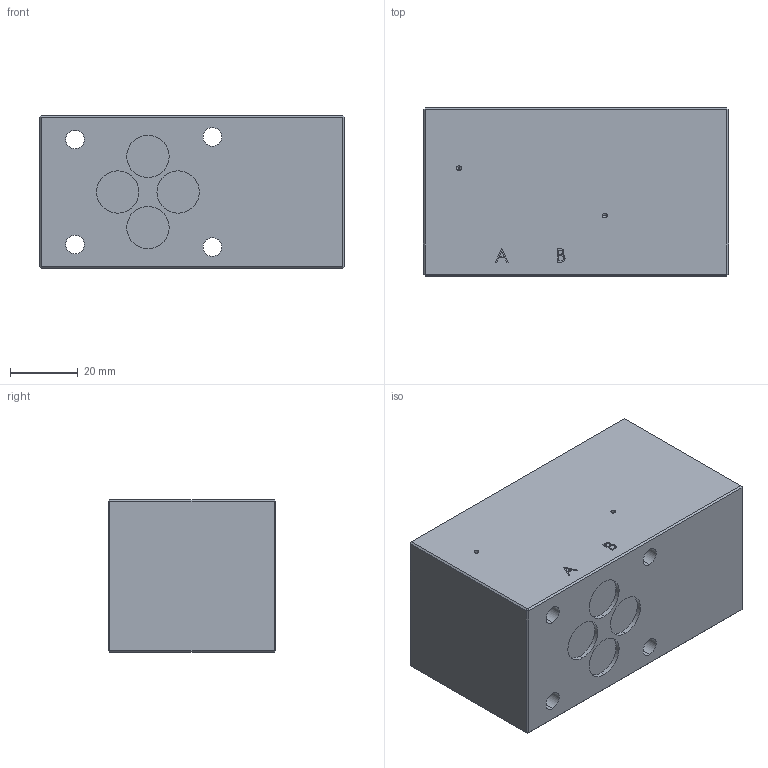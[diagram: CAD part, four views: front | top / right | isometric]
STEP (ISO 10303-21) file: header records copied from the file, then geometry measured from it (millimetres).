
FILE_DESCRIPTION (( 'STEP AP214' ), '1' );
FILE_NAME ('SV.SA-PC_PO_TC_TO.STEP', '2021-06-17T12:00:59', ( '' ), ( '' ), 'SwSTEP 2.0', 'SolidWorks 2020', '' );
FILE_SCHEMA (( 'AUTOMOTIVE_DESIGN' ));
Length unit declared in the file: millimetre
Products named in the file (1): SV.SA-PC_PO_TC_TO
Bounding box: 90 x 49.5 x 45 mm (x, y, z)
Volume: 179780.7 mm3; surface area: 27847.1 mm2
Topology: 1 solids, 1 shells, 126 faces, 292 edges, 172 vertices
Faces by surface type: plane 57, cylinder 36, cone 20, bspline 9, torus 4
Entity records: 4022 total; most frequent: CARTESIAN_POINT 1160, DIRECTION 578, ORIENTED_EDGE 560, EDGE_CURVE 280, AXIS2_PLACEMENT_3D 202, LINE 174, VECTOR 174, VERTEX_POINT 172
